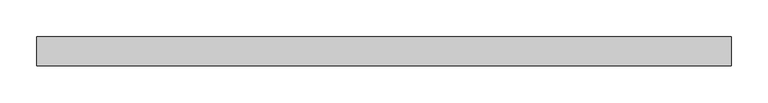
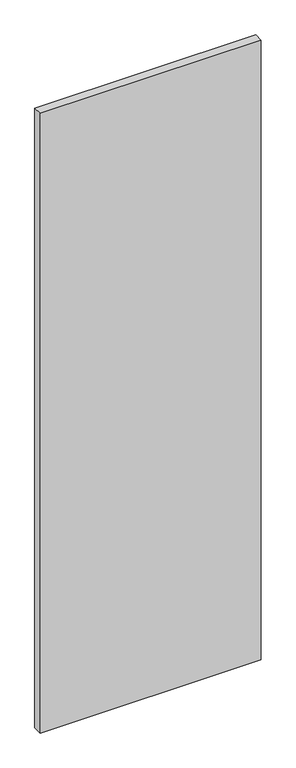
"""IFC4 building model written with IfcOpenShell, lengths in millimetres: plate geometry, Vitré."""

from ifc_helpers import new_model, si_unit, origin, origin_with_axes, place, context, project, spatial, polyline, outline, extrude, source, transform, mapped, element, save


def plate_704f263d(model_context):
    return source(origin(), model_context, "Body", "SweptSolid", [
        extrude(outline(polyline([(-475.0000002, -20.0), (-475.0000002, 20.0), (475.0000002, 20.0), (475.0000002, -20.0), (-475.0000002, -20.0)])), origin_with_axes(), (0.0, 0.0, 1.0), 2814.4970552),
    ])


if __name__ == "__main__":
    model = new_model("IFC4")
    model_context = context("Model", 3, world=origin())
    ifc_project = project(units=[si_unit("LENGTHUNIT", "METRE", prefix="MILLI")], contexts=[model_context])
    site = spatial("IfcSite", under=ifc_project)
    building = spatial("IfcBuilding", under=site)
    placement = place(None, origin())
    plate_shape = plate_704f263d(model_context)
    element("IfcPlate", 1, ObjectType="Vitré", at=placement, inside=building, context=model_context, shape_type="MappedRepresentation", body=[
        mapped(plate_shape, transform((0.0, 0.0, 0.0), x_axis=(1.0, 0.0, 0.0), y_axis=(0.0, 1.0, 0.0), z_axis=(0.0, 0.0, 1.0))),
    ])
    save(model, "model.ifc")
